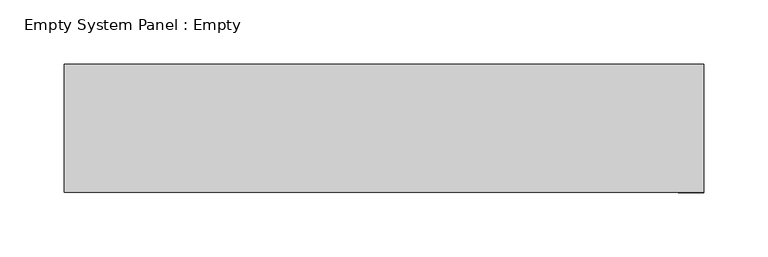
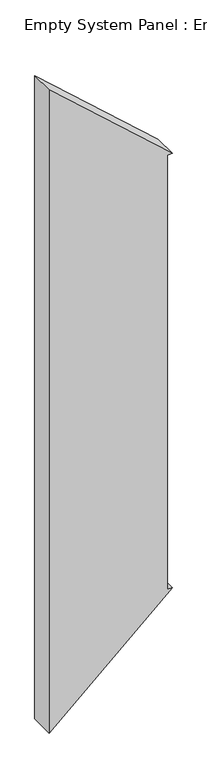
"""IFC4 building model written with IfcOpenShell, lengths in millimetres: plate geometry, Empty System Panel : Empty."""

from ifc_helpers import new_model, si_unit, frame, origin, place, context, project, spatial, polyline, outline, extrude, source, transform, mapped, element, save


def empty_system_panel_empty_ee5a994f(model_context):
    return source(origin(), model_context, "Body", "SweptSolid", [
        extrude(outline(polyline([(0.0, -249.7473037), (446.8059677, 249.7473037), (446.8059677, 229.7473037), (2305.5911267, 229.7473037), (2305.5911267, 249.7473037), (2752.3970944, -249.7473037), (0.0, -249.7473037)])), frame((0.0, -50.0, 0.0), z_axis=(0.0, 1.0, 0.0), x_axis=(0.0, 0.0, 1.0)), (0.0, 0.0, 1.0), 100.0),
    ])


if __name__ == "__main__":
    model = new_model("IFC4")
    model_context = context("Model", 3, world=origin())
    ifc_project = project(units=[si_unit("LENGTHUNIT", "METRE", prefix="MILLI")], contexts=[model_context])
    site = spatial("IfcSite", under=ifc_project)
    building = spatial("IfcBuilding", under=site)
    placement = place(None, origin())
    empty_system_panel_empty_shape = empty_system_panel_empty_ee5a994f(model_context)
    element("IfcPlate", 1, ObjectType="Empty System Panel : Empty", at=placement, inside=building, context=model_context, shape_type="MappedRepresentation", body=[
        mapped(empty_system_panel_empty_shape, transform((0.0, 0.0, 0.0), x_axis=(1.0, 0.0, 0.0), y_axis=(0.0, 1.0, 0.0), z_axis=(0.0, 0.0, 1.0))),
    ])
    save(model, "model.ifc")
